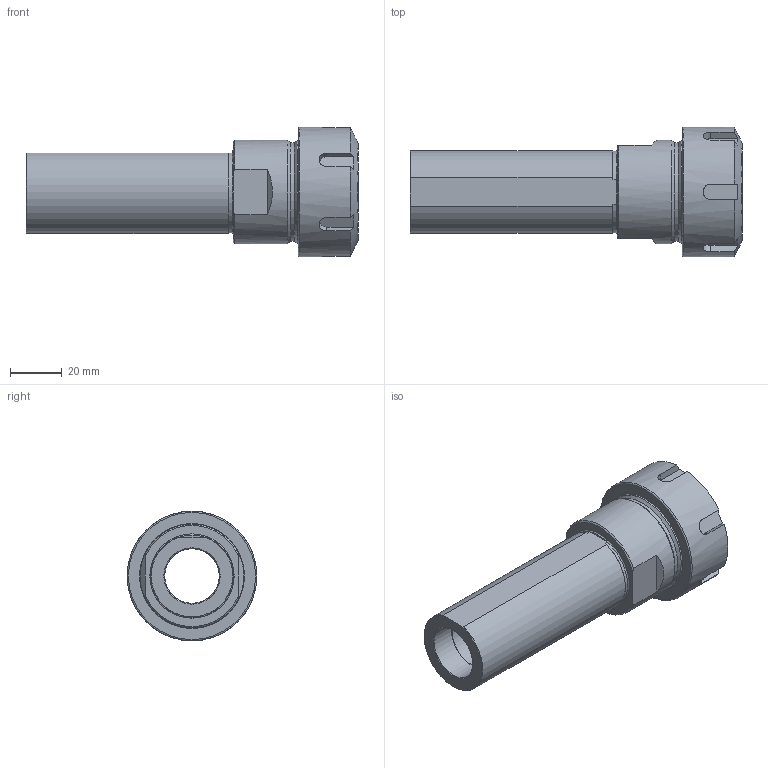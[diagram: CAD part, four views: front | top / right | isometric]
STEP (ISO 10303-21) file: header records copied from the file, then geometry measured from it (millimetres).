
FILE_DESCRIPTION(/* description */ (''),/* implementation_level */ '2;1');
FILE_NAME(/* name */ 'SL32-ER32-80L.stp',/* time_stamp */ '2025-12-25T14:15:12+03:00',/* author */ ('User'),/* organization */ (''),/* preprocessor_version */ 'ST-DEVELOPER v19.2',/* originating_system */ 'Autodesk Inventor 2024',/* authorisation */ '');
FILE_SCHEMA (('AUTOMOTIVE_DESIGN { 1 0 10303 214 3 1 1 }'));
Length unit declared in the file: millimetre
Products named in the file (3): SL32-ER32-80L; C25-ER25UM-100; ER25-M
Assembly tree (2 placements, depth 2):
  SL32-ER32-80L
    C25-ER25UM-100
    ER25-M
Bounding box: 128 x 50 x 50 mm (x, y, z)
Volume: 81358.1 mm3; surface area: 32788.5 mm2
Topology: 2 solids, 2 shells, 69 faces, 174 edges, 115 vertices
Faces by surface type: plane 34, cylinder 18, cone 14, torus 3
Full cylindrical faces by diameter (mm): 21 x1, 21.2 x1, 25 x1, 31 x1, 38 x1, 38.5 x2, 40 x2, 50 x1
Entity records: 2337 total; most frequent: CARTESIAN_POINT 525, ORIENTED_EDGE 348, DIRECTION 348, EDGE_CURVE 174, AXIS2_PLACEMENT_3D 139, VERTEX_POINT 115, EDGE_LOOP 79, LINE 70
